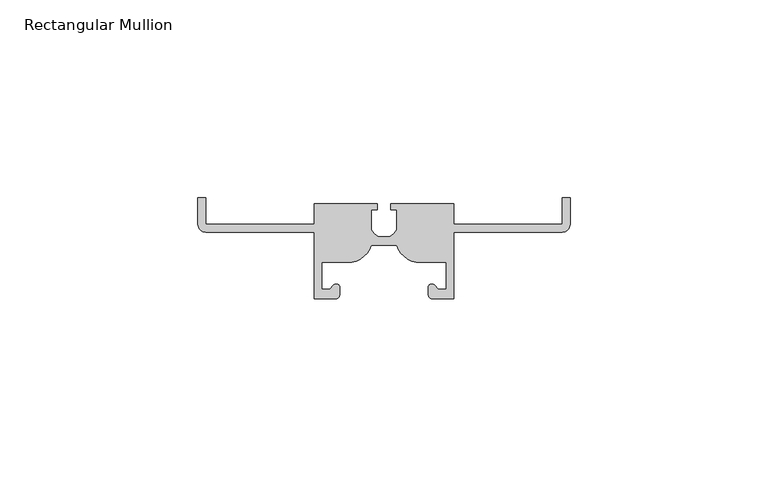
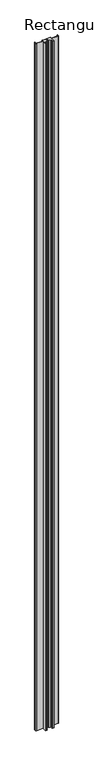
"""IFC4 building model written with IfcOpenShell, lengths in millimetres: member geometry, Rectangular Mullion : NLRS_21_CWM_drager LD.0240_Storax."""

from ifc_helpers import new_model, si_unit, point, frame, frame_2d, origin, place, context, project, spatial, polyline, circle_curve, trimmed, segment, composite_curve, outline, extrude, source, transform, mapped, element, save


def rectangular_mullion_82152e2f(model_context):
    return source(origin(), model_context, "Body", "SweptSolid", [
        extrude(outline(composite_curve([segment(trimmed(circle_curve(frame_2d((44.9912581, -7.6257936)), 2.0087419), [point((47.0, -7.6257936))], [point((44.9912581, -9.6345355))], False, "CARTESIAN"), True, "CONTINUOUS"), segment(polyline([(44.9912581, -9.6345355), (17.6599764, -9.6345355), (17.6599764, -26.5), (12.3468461, -26.5)]), True, "CONTINUOUS"), segment(trimmed(circle_curve(frame_2d((12.3468461, -25.3135005)), 1.1864995), [point((12.3468461, -26.5))], [point((11.1603466, -25.3135005))], False, "CARTESIAN"), True, "CONTINUOUS"), segment(polyline([(11.1603466, -25.3135005), (11.1603466, -23.3009057)]), True, "CONTINUOUS"), segment(trimmed(circle_curve(frame_2d((12.1227149, -23.8515635)), 1.1087726), [point((11.1603466, -23.3009057))], [point((12.8614271, -23.0247134))], False, "CARTESIAN"), True, "CONTINUOUS"), segment(polyline([(12.8614271, -23.0247134), (13.7509755, -24.1232143), (15.6734126, -24.1232143), (15.6734126, -17.2531745), (8.1368198, -17.2531745)]), True, "CONTINUOUS"), segment(trimmed(circle_curve(frame_2d((9.367927, -10.8255058)), 6.5445053), [point((8.1368198, -17.2531745))], [point((3.1741489, -12.9391905))], False, "CARTESIAN"), True, "CONTINUOUS"), segment(polyline([(3.1741489, -12.9391905), (-3.1741489, -12.9391905)]), True, "CONTINUOUS"), segment(trimmed(circle_curve(frame_2d((-9.367927, -10.8255058)), 6.5445053), [point((-3.1741489, -12.9391905))], [point((-8.1368198, -17.2531745))], False, "CARTESIAN"), True, "CONTINUOUS"), segment(polyline([(-8.1368198, -17.2531745), (-15.6734126, -17.2531745), (-15.6734126, -24.1232143), (-13.7509755, -24.1232143), (-12.8614271, -23.0247134)]), True, "CONTINUOUS"), segment(trimmed(circle_curve(frame_2d((-12.1227149, -23.8515635)), 1.1087726), [point((-12.8614271, -23.0247134))], [point((-11.1603466, -23.3009057))], False, "CARTESIAN"), True, "CONTINUOUS"), segment(polyline([(-11.1603466, -23.3009057), (-11.1603466, -25.3135005)]), True, "CONTINUOUS"), segment(trimmed(circle_curve(frame_2d((-12.3468461, -25.3135005)), 1.1864995), [point((-11.1603466, -25.3135005))], [point((-12.3468461, -26.5))], False, "CARTESIAN"), True, "CONTINUOUS"), segment(polyline([(-12.3468461, -26.5), (-17.6599764, -26.5), (-17.6599764, -9.6345355), (-44.9912581, -9.6345355)]), True, "CONTINUOUS"), segment(trimmed(circle_curve(frame_2d((-44.9912581, -7.6257936)), 2.0087419), [point((-44.9912581, -9.6345355))], [point((-47.0, -7.6257936))], False, "CARTESIAN"), True, "CONTINUOUS"), segment(polyline([(-47.0, -7.6257936), (-47.0, -1.0), (-44.9912581, -1.0), (-44.9912581, -7.611542), (-17.6599764, -7.611542), (-17.6599764, -2.5065082), (-1.6945192, -2.5065082), (-1.6945192, -4.0065082), (-3.1741489, -4.0065082), (-3.1741489, -9.0065082)]), True, "CONTINUOUS"), segment(trimmed(circle_curve(frame_2d((-0.0039792, -7.6048296)), 3.4662197), [point((-3.1741489, -9.0065082))], [point((-1.4056577, -10.7749993))], True, "CARTESIAN"), True, "CONTINUOUS"), segment(polyline([(-1.4056577, -10.7749993), (1.4056577, -10.7749993)]), True, "CONTINUOUS"), segment(trimmed(circle_curve(frame_2d((0.0039792, -7.6048296)), 3.4662197), [point((1.4056577, -10.7749993))], [point((3.1741489, -9.0065082))], True, "CARTESIAN"), True, "CONTINUOUS"), segment(polyline([(3.1741489, -9.0065082), (3.1741489, -4.0065082), (1.6945192, -4.0065082), (1.6945192, -2.5065082), (17.6599764, -2.5065082), (17.6599764, -7.611542), (44.9912581, -7.611542), (44.9912581, -1.0), (47.0, -1.0), (47.0, -7.6257936)]), True, "CONTINUOUS")], self_intersect=False)), frame((0.0, 0.0, -3000.0), z_axis=(0.0, 0.0, 1.0), x_axis=(1.0, 0.0, 0.0)), (0.0, 0.0, 1.0), 3000.0),
    ])


if __name__ == "__main__":
    model = new_model("IFC4")
    model_context = context("Model", 3, world=origin())
    ifc_project = project(units=[si_unit("LENGTHUNIT", "METRE", prefix="MILLI")], contexts=[model_context])
    site = spatial("IfcSite", under=ifc_project)
    building = spatial("IfcBuilding", under=site)
    placement = place(None, origin())
    rectangular_mullion_shape = rectangular_mullion_82152e2f(model_context)
    element("IfcMember", 1, ObjectType="Rectangular Mullion : NLRS_21_CWM_drager LD.0240_Storax", at=placement, inside=building, context=model_context, shape_type="MappedRepresentation", body=[
        mapped(rectangular_mullion_shape, transform((0.0, 0.0, 0.0), x_axis=(1.0, 0.0, 0.0), y_axis=(0.0, 1.0, 0.0), z_axis=(0.0, 0.0, 1.0))),
    ])
    save(model, "model.ifc")
